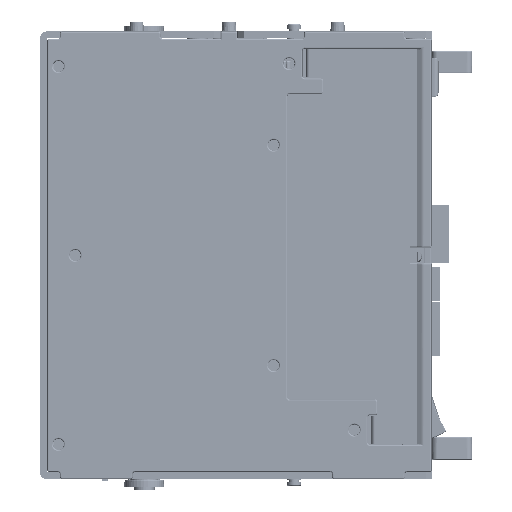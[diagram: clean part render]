
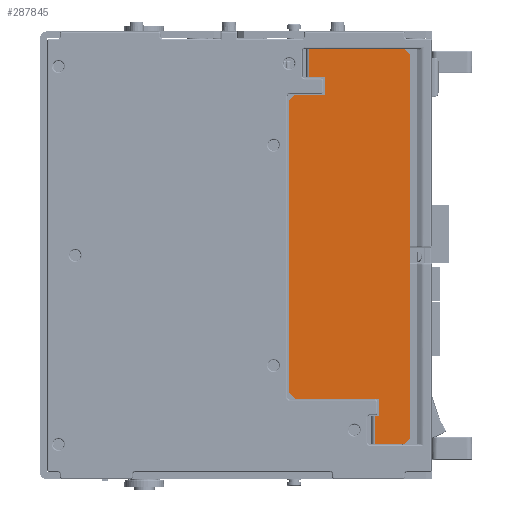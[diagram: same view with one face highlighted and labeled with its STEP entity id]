
A CAD part, front view. The second image highlights one B-rep face of the part: STEP entity #287845.
In plain terms, the highlighted planar face has unit normal (0, -1, 0).
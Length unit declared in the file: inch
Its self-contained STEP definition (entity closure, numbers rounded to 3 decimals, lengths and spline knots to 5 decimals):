
#8780 = CARTESIAN_POINT ( 'NONE',  ( 2.162, -0.37, -3.117 ) ) ;
#9954 = VERTEX_POINT ( 'NONE', #357609 ) ;
#13821 = ORIENTED_EDGE ( 'NONE', *, *, #307650, .F. ) ;
#16240 = ORIENTED_EDGE ( 'NONE', *, *, #34575, .F. ) ;
#16610 = VERTEX_POINT ( 'NONE', #536755 ) ;
#17644 = EDGE_LOOP ( 'NONE', ( #13821, #300483, #366108, #24092, #143835, #154712, #105340, #372343, #206781, #470342, #16240, #345200, #201569, #176438, #515635, #512125 ) ) ;
#18278 = VERTEX_POINT ( 'NONE', #371829 ) ;
#24092 = ORIENTED_EDGE ( 'NONE', *, *, #493465, .T. ) ;
#27869 = CARTESIAN_POINT ( 'NONE',  ( 2.432, -0.37, 0. ) ) ;
#34575 = EDGE_CURVE ( 'NONE', #89349, #409307, #371943, .T. ) ;
#39432 = EDGE_CURVE ( 'NONE', #534979, #396631, #534623, .T. ) ;
#41087 = CARTESIAN_POINT ( 'NONE',  ( 1.4329, -0.37, 1.7121 ) ) ;
#51829 = VECTOR ( 'NONE', #361605, 39.37008 ) ;
#57934 = CARTESIAN_POINT ( 'NONE',  ( 3.145, -0.37, 0. ) ) ;
#62656 = EDGE_CURVE ( 'NONE', #256763, #89349, #478016, .T. ) ;
#63295 = EDGE_CURVE ( 'NONE', #232839, #128297, #440080, .T. ) ;
#71469 = CARTESIAN_POINT ( 'NONE',  ( 2.8776, -0.37, -3.523 ) ) ;
#81368 = DIRECTION ( 'NONE',  ( 0., -1., 0. ) ) ;
#86144 = LINE ( 'NONE', #509205, #139876 ) ;
#86283 = CARTESIAN_POINT ( 'NONE',  ( 2.8776, -0.37, 0. ) ) ;
#89349 = VERTEX_POINT ( 'NONE', #165509 ) ;
#91000 = VECTOR ( 'NONE', #275229, 39.37008 ) ;
#91624 = VECTOR ( 'NONE', #327009, 39.37008 ) ;
#91752 = CARTESIAN_POINT ( 'NONE',  ( 0., -0.37, -0.406 ) ) ;
#104407 = DIRECTION ( 'NONE',  ( 0., 0., 1. ) ) ;
#105340 = ORIENTED_EDGE ( 'NONE', *, *, #258314, .F. ) ;
#107255 = DIRECTION ( 'NONE',  ( 0., 0., 1. ) ) ;
#107647 = CARTESIAN_POINT ( 'NONE',  ( -0.1396, -0.37, -0.25 ) ) ;
#116531 = VERTEX_POINT ( 'NONE', #225234 ) ;
#116997 = DIRECTION ( 'NONE',  ( 1., 0., 0. ) ) ;
#118552 = VERTEX_POINT ( 'NONE', #8780 ) ;
#122631 = PLANE ( 'NONE',  #231490 ) ;
#126211 = EDGE_CURVE ( 'NONE', #256763, #232839, #283345, .T. ) ;
#128297 = VERTEX_POINT ( 'NONE', #471608 ) ;
#134090 = EDGE_CURVE ( 'NONE', #9954, #118552, #185982, .T. ) ;
#136666 = VECTOR ( 'NONE', #303129, 39.37008 ) ;
#139068 = VECTOR ( 'NONE', #523939, 39.37008 ) ;
#139876 = VECTOR ( 'NONE', #457119, 39.37008 ) ;
#143835 = ORIENTED_EDGE ( 'NONE', *, *, #39432, .F. ) ;
#144825 = LINE ( 'NONE', #194057, #51829 ) ;
#145295 = EDGE_CURVE ( 'NONE', #539051, #409307, #414795, .T. ) ;
#148478 = CARTESIAN_POINT ( 'NONE',  ( 2.112, -0.37, 0. ) ) ;
#154712 = ORIENTED_EDGE ( 'NONE', *, *, #415777, .F. ) ;
#157790 = DIRECTION ( 'NONE',  ( 1., 0., 0. ) ) ;
#162571 = VECTOR ( 'NONE', #403036, 39.37008 ) ;
#165509 = CARTESIAN_POINT ( 'NONE',  ( 2.2946, -0.37, 0. ) ) ;
#172939 = LINE ( 'NONE', #340529, #407162 ) ;
#176438 = ORIENTED_EDGE ( 'NONE', *, *, #63295, .T. ) ;
#179020 = VECTOR ( 'NONE', #426835, 39.37008 ) ;
#179588 = CARTESIAN_POINT ( 'NONE',  ( 2.432, -0.37, -0.25 ) ) ;
#185982 = LINE ( 'NONE', #405591, #139068 ) ;
#194057 = CARTESIAN_POINT ( 'NONE',  ( 0., -0.37, -3.117 ) ) ;
#201569 = ORIENTED_EDGE ( 'NONE', *, *, #126211, .T. ) ;
#206781 = ORIENTED_EDGE ( 'NONE', *, *, #320381, .T. ) ;
#207663 = CARTESIAN_POINT ( 'NONE',  ( -0.2792, -0.37, 0. ) ) ;
#209870 = CARTESIAN_POINT ( 'NONE',  ( -0.1396, -0.37, -3.523 ) ) ;
#213297 = VECTOR ( 'NONE', #104407, 39.37008 ) ;
#216222 = VERTEX_POINT ( 'NONE', #71469 ) ;
#220664 = EDGE_CURVE ( 'NONE', #128297, #307923, #468085, .T. ) ;
#225234 = CARTESIAN_POINT ( 'NONE',  ( 2.915, -0.37, -3.117 ) ) ;
#231490 = AXIS2_PLACEMENT_3D ( 'NONE', #207663, #81368, #249002 ) ;
#232839 = VERTEX_POINT ( 'NONE', #179588 ) ;
#235768 = LINE ( 'NONE', #351957, #381258 ) ;
#238511 = DIRECTION ( 'NONE',  ( 0., 0., 1. ) ) ;
#239430 = DIRECTION ( 'NONE',  ( 1., 0., 0. ) ) ;
#243581 = FACE_OUTER_BOUND ( 'NONE', #17644, .T. ) ;
#246385 = CARTESIAN_POINT ( 'NONE',  ( 3.1944, -0.37, -3.4736 ) ) ;
#249002 = DIRECTION ( 'NONE',  ( 0., 0., -1. ) ) ;
#251753 = VECTOR ( 'NONE', #116997, 39.37008 ) ;
#256763 = VERTEX_POINT ( 'NONE', #437974 ) ;
#258314 = EDGE_CURVE ( 'NONE', #18278, #216222, #385507, .T. ) ;
#275229 = DIRECTION ( 'NONE',  ( 0., 0., -1. ) ) ;
#281482 = CARTESIAN_POINT ( 'NONE',  ( -0.1396, -0.37, 0. ) ) ;
#283345 = LINE ( 'NONE', #107647, #310566 ) ;
#285196 = VECTOR ( 'NONE', #157790, 39.37008 ) ;
#287845 = ADVANCED_FACE ( 'NONE', ( #243581 ), #122631, .T. ) ;
#300483 = ORIENTED_EDGE ( 'NONE', *, *, #134090, .T. ) ;
#300495 = DIRECTION ( 'NONE',  ( 0., 0., 1. ) ) ;
#303129 = DIRECTION ( 'NONE',  ( -1., 0., 0. ) ) ;
#307650 = EDGE_CURVE ( 'NONE', #9954, #370484, #483613, .T. ) ;
#307923 = VERTEX_POINT ( 'NONE', #510013 ) ;
#310566 = VECTOR ( 'NONE', #239430, 39.37008 ) ;
#311458 = EDGE_CURVE ( 'NONE', #307923, #370484, #86144, .T. ) ;
#313162 = CARTESIAN_POINT ( 'NONE',  ( 2.2946, -0.37, 0. ) ) ;
#320381 = EDGE_CURVE ( 'NONE', #16610, #539051, #235768, .T. ) ;
#327009 = DIRECTION ( 'NONE',  ( -0.707, 0., 0.707 ) ) ;
#333590 = LINE ( 'NONE', #86283, #391256 ) ;
#340529 = CARTESIAN_POINT ( 'NONE',  ( 2.915, -0.37, 0. ) ) ;
#345200 = ORIENTED_EDGE ( 'NONE', *, *, #62656, .F. ) ;
#351957 = CARTESIAN_POINT ( 'NONE',  ( 3.195, -0.37, 0. ) ) ;
#357609 = CARTESIAN_POINT ( 'NONE',  ( 2.112, -0.37, -3.067 ) ) ;
#361605 = DIRECTION ( 'NONE',  ( 1., 0., 0. ) ) ;
#363008 = CARTESIAN_POINT ( 'NONE',  ( 2.8776, -0.37, -3.273 ) ) ;
#366108 = ORIENTED_EDGE ( 'NONE', *, *, #445958, .T. ) ;
#370484 = VERTEX_POINT ( 'NONE', #484935 ) ;
#371829 = CARTESIAN_POINT ( 'NONE',  ( 3.145, -0.37, -3.523 ) ) ;
#371943 = LINE ( 'NONE', #281482, #285196 ) ;
#372343 = ORIENTED_EDGE ( 'NONE', *, *, #519258, .T. ) ;
#381258 = VECTOR ( 'NONE', #238511, 39.37008 ) ;
#385507 = LINE ( 'NONE', #209870, #136666 ) ;
#391256 = VECTOR ( 'NONE', #300495, 39.37008 ) ;
#396631 = VERTEX_POINT ( 'NONE', #505984 ) ;
#403036 = DIRECTION ( 'NONE',  ( 0.707, 0., 0.707 ) ) ;
#405591 = CARTESIAN_POINT ( 'NONE',  ( -0.6171, -0.37, -0.3379 ) ) ;
#407162 = VECTOR ( 'NONE', #527131, 39.37008 ) ;
#409307 = VERTEX_POINT ( 'NONE', #57934 ) ;
#414795 = LINE ( 'NONE', #41087, #91624 ) ;
#415777 = EDGE_CURVE ( 'NONE', #216222, #534979, #333590, .T. ) ;
#426835 = DIRECTION ( 'NONE',  ( -1., 0., 0. ) ) ;
#437974 = CARTESIAN_POINT ( 'NONE',  ( 2.2946, -0.37, -0.25 ) ) ;
#440080 = LINE ( 'NONE', #27869, #91000 ) ;
#445958 = EDGE_CURVE ( 'NONE', #118552, #116531, #144825, .T. ) ;
#457119 = DIRECTION ( 'NONE',  ( -0.707, 0., -0.707 ) ) ;
#468085 = LINE ( 'NONE', #91752, #179020 ) ;
#470342 = ORIENTED_EDGE ( 'NONE', *, *, #145295, .T. ) ;
#471608 = CARTESIAN_POINT ( 'NONE',  ( 2.432, -0.37, -0.406 ) ) ;
#478016 = LINE ( 'NONE', #313162, #213297 ) ;
#483613 = LINE ( 'NONE', #148478, #515646 ) ;
#484935 = CARTESIAN_POINT ( 'NONE',  ( 2.112, -0.37, -0.456 ) ) ;
#488219 = LINE ( 'NONE', #246385, #162571 ) ;
#493339 = CARTESIAN_POINT ( 'NONE',  ( -0.1396, -0.37, -3.273 ) ) ;
#493465 = EDGE_CURVE ( 'NONE', #116531, #396631, #172939, .T. ) ;
#505984 = CARTESIAN_POINT ( 'NONE',  ( 2.915, -0.37, -3.273 ) ) ;
#509205 = CARTESIAN_POINT ( 'NONE',  ( 1.1444, -0.37, -1.4236 ) ) ;
#510013 = CARTESIAN_POINT ( 'NONE',  ( 2.162, -0.37, -0.406 ) ) ;
#512125 = ORIENTED_EDGE ( 'NONE', *, *, #311458, .T. ) ;
#515635 = ORIENTED_EDGE ( 'NONE', *, *, #220664, .T. ) ;
#515646 = VECTOR ( 'NONE', #107255, 39.37008 ) ;
#519258 = EDGE_CURVE ( 'NONE', #18278, #16610, #488219, .T. ) ;
#523939 = DIRECTION ( 'NONE',  ( 0.707, 0., -0.707 ) ) ;
#527131 = DIRECTION ( 'NONE',  ( 0., 0., -1. ) ) ;
#528746 = CARTESIAN_POINT ( 'NONE',  ( 3.195, -0.37, -0.05 ) ) ;
#534623 = LINE ( 'NONE', #493339, #251753 ) ;
#534979 = VERTEX_POINT ( 'NONE', #363008 ) ;
#536755 = CARTESIAN_POINT ( 'NONE',  ( 3.195, -0.37, -3.473 ) ) ;
#539051 = VERTEX_POINT ( 'NONE', #528746 ) ;
